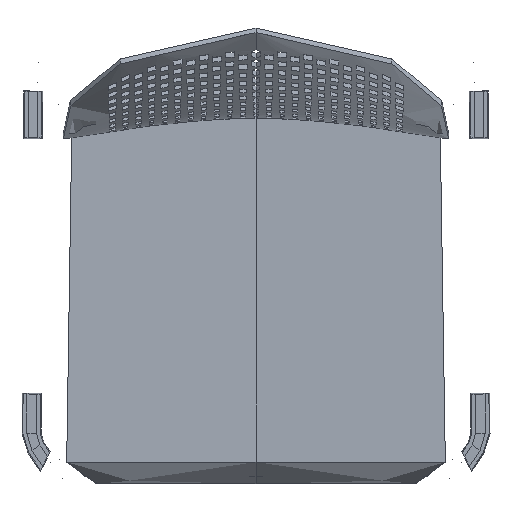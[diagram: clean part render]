
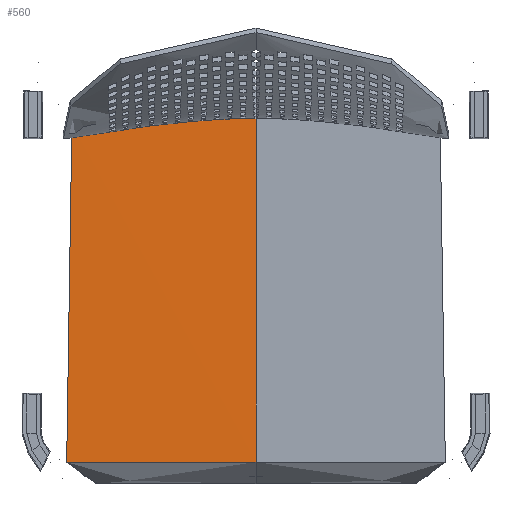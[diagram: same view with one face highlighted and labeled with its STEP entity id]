
A CAD part, top view. The second image highlights one B-rep face of the part: STEP entity #560.
In plain terms, the highlighted free-form (B-spline) face has degree [3, 3] with [4, 6] control points.
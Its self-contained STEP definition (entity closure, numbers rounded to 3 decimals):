
#560=ADVANCED_FACE('',(#1643),#20193,.T.);
#1643=FACE_OUTER_BOUND('',#2726,.T.);
#2726=EDGE_LOOP('',(#4316,#4317,#4318,#4319,#4320));
#4316=ORIENTED_EDGE('',*,*,#10676,.T.);
#4317=ORIENTED_EDGE('',*,*,#10666,.T.);
#4318=ORIENTED_EDGE('',*,*,#10685,.F.);
#4319=ORIENTED_EDGE('',*,*,#10661,.T.);
#4320=ORIENTED_EDGE('',*,*,#10686,.F.);
#10661=EDGE_CURVE('',#17061,#17063,#13990,.T.);
#10666=EDGE_CURVE('',#17066,#17067,#13995,.T.);
#10676=EDGE_CURVE('',#17072,#17066,#14005,.T.);
#10685=EDGE_CURVE('',#17061,#17067,#14014,.T.);
#10686=EDGE_CURVE('',#17072,#17063,#13840,.T.);
#13840=(
BOUNDED_CURVE()
B_SPLINE_CURVE(3,(#31463,#31464,#31465,#31466,#31467,#31468,#31469,#31470,
#31471,#31472,#31473,#31474,#31475,#31476,#31477,#31478,#31479,#31480,#31481,
#31482,#31483,#31484,#31485,#31486,#31487,#31488,#31489,#31490,#31491,#31492,
#31493),.UNSPECIFIED.,.F.,.F.)
B_SPLINE_CURVE_WITH_KNOTS((4,1,1,3,3,1,1,1,3,1,3,3,3,3,4),(2.851,
11.912,18.296,25.391,29.766,33.648,
35.997,37.781,43.025,45.325,48.241,
51.964,58.29,64.261,66.204),
 .UNSPECIFIED.)
CURVE()
GEOMETRIC_REPRESENTATION_ITEM()
RATIONAL_B_SPLINE_CURVE((1.,1.,1.,1.,1.,
1.,1.,1.,1.,1.,1.,1.,1.,1.,
1.,1.,1.,1.,1.,1.,1.,1.,1.,1.,1.,1.,1.,1.,
1.,1.,1.))
REPRESENTATION_ITEM('')
);
#13990=B_SPLINE_CURVE_WITH_KNOTS('',3,(#31202,#31203,#31204,#31205),
 .UNSPECIFIED.,.F.,.F.,(4,4),(-218.041,-38.983),
 .UNSPECIFIED.);
#13995=B_SPLINE_CURVE_WITH_KNOTS('',3,(#31234,#31235,#31236,#31237),
 .UNSPECIFIED.,.F.,.F.,(4,4),(0.,218.041),.UNSPECIFIED.);
#14005=B_SPLINE_CURVE_WITH_KNOTS('',1,(#31324,#31325),.UNSPECIFIED.,.F.,
 .F.,(2,2),(-388.74,0.),.UNSPECIFIED.);
#14014=B_SPLINE_CURVE_WITH_KNOTS('',3,(#31457,#31458,#31459,#31460,#31461,
#31462),.UNSPECIFIED.,.F.,.F.,(4,1,1,4),(-478.317,-332.608,
-186.899,-41.19),.UNSPECIFIED.);
#17061=VERTEX_POINT('',#28997);
#17063=VERTEX_POINT('',#28999);
#17066=VERTEX_POINT('',#29002);
#17067=VERTEX_POINT('',#29003);
#17072=VERTEX_POINT('',#29008);
#20193=B_SPLINE_SURFACE_WITH_KNOTS('',3,3,((#21670,#21671,#21672,#21673,
#21674,#21675),(#21676,#21677,#21678,#21679,#21680,#21681),(#21682,#21683,
#21684,#21685,#21686,#21687),(#21688,#21689,#21690,#21691,#21692,#21693)),
 .UNSPECIFIED.,.F.,.F.,.F.,(4,4),(4,1,1,4),(-0.436,218.041),
(41.19,186.899,332.608,478.754),
 .UNSPECIFIED.);
#21670=CARTESIAN_POINT('',(-218.048,-200.999,463.095));
#21671=CARTESIAN_POINT('',(-217.329,-154.605,462.325));
#21672=CARTESIAN_POINT('',(-215.891,-62.02,460.852));
#21673=CARTESIAN_POINT('',(-213.732,77.057,458.542));
#21674=CARTESIAN_POINT('',(-212.292,169.882,456.959));
#21675=CARTESIAN_POINT('',(-211.571,216.377,456.176));
#21676=CARTESIAN_POINT('',(-145.365,-200.999,461.087));
#21677=CARTESIAN_POINT('',(-144.886,-164.658,460.484));
#21678=CARTESIAN_POINT('',(-143.927,-58.489,448.29));
#21679=CARTESIAN_POINT('',(-142.488,90.792,446.302));
#21680=CARTESIAN_POINT('',(-141.528,180.446,452.036));
#21681=CARTESIAN_POINT('',(-141.047,223.036,453.407));
#21682=CARTESIAN_POINT('',(-72.683,-200.999,460.083));
#21683=CARTESIAN_POINT('',(-72.443,-169.684,459.563));
#21684=CARTESIAN_POINT('',(-71.964,-56.724,442.009));
#21685=CARTESIAN_POINT('',(-71.244,97.659,440.182));
#21686=CARTESIAN_POINT('',(-70.764,185.728,449.575));
#21687=CARTESIAN_POINT('',(-70.524,226.365,452.022));
#21688=CARTESIAN_POINT('',(0.,-200.999,460.083));
#21689=CARTESIAN_POINT('',(0.,-169.684,459.563));
#21690=CARTESIAN_POINT('',(0.,-56.724,442.009));
#21691=CARTESIAN_POINT('',(0.,97.659,440.182));
#21692=CARTESIAN_POINT('',(0.,185.728,449.575));
#21693=CARTESIAN_POINT('',(0.,226.365,452.022));
#28997=CARTESIAN_POINT('',(0.,226.,452.));
#28999=CARTESIAN_POINT('',(-173.403,219.256,454.809));
#29002=CARTESIAN_POINT('',(-217.613,-200.999,463.083));
#29003=CARTESIAN_POINT('',(0.,-200.999,460.083));
#29008=CARTESIAN_POINT('',(-211.594,187.641,456.636));
#31202=CARTESIAN_POINT('',(0.,226.,452.));
#31203=CARTESIAN_POINT('',(-57.801,226.,452.));
#31204=CARTESIAN_POINT('',(-115.602,223.752,452.936));
#31205=CARTESIAN_POINT('',(-173.403,219.256,454.809));
#31234=CARTESIAN_POINT('',(-217.613,-200.999,463.083));
#31235=CARTESIAN_POINT('',(-145.075,-200.999,461.083));
#31236=CARTESIAN_POINT('',(-72.538,-200.999,460.083));
#31237=CARTESIAN_POINT('',(0.,-200.999,460.083));
#31324=CARTESIAN_POINT('',(-211.594,187.641,456.636));
#31325=CARTESIAN_POINT('',(-217.613,-200.999,463.083));
#31457=CARTESIAN_POINT('',(0.,226.,452.));
#31458=CARTESIAN_POINT('',(0.,185.464,449.547));
#31459=CARTESIAN_POINT('',(0.,97.505,440.184));
#31460=CARTESIAN_POINT('',(0.,-56.724,442.009));
#31461=CARTESIAN_POINT('',(0.,-169.684,459.563));
#31462=CARTESIAN_POINT('',(0.,-200.999,460.083));
#31463=CARTESIAN_POINT('',(-211.594,187.641,456.636));
#31464=CARTESIAN_POINT('',(-208.679,186.894,456.478));
#31465=CARTESIAN_POINT('',(-203.606,186.011,456.189));
#31466=CARTESIAN_POINT('',(-196.091,185.782,455.749));
#31467=CARTESIAN_POINT('',(-191.609,186.251,455.489));
#31468=CARTESIAN_POINT('',(-189.278,186.675,455.358));
#31469=CARTESIAN_POINT('',(-187.842,186.937,455.277));
#31470=CARTESIAN_POINT('',(-186.416,187.277,455.198));
#31471=CARTESIAN_POINT('',(-185.031,187.75,455.123));
#31472=CARTESIAN_POINT('',(-183.804,188.17,455.057));
#31473=CARTESIAN_POINT('',(-181.884,189.018,454.957));
#31474=CARTESIAN_POINT('',(-179.674,190.557,454.852));
#31475=CARTESIAN_POINT('',(-177.367,192.702,454.75));
#31476=CARTESIAN_POINT('',(-176.067,194.709,454.706));
#31477=CARTESIAN_POINT('',(-175.373,196.318,454.689));
#31478=CARTESIAN_POINT('',(-175.068,197.024,454.682));
#31479=CARTESIAN_POINT('',(-174.486,198.671,454.671));
#31480=CARTESIAN_POINT('',(-174.139,200.38,454.674));
#31481=CARTESIAN_POINT('',(-173.994,201.341,454.677));
#31482=CARTESIAN_POINT('',(-173.808,202.569,454.682));
#31483=CARTESIAN_POINT('',(-173.711,203.807,454.69));
#31484=CARTESIAN_POINT('',(-173.639,205.044,454.699));
#31485=CARTESIAN_POINT('',(-173.514,207.147,454.715));
#31486=CARTESIAN_POINT('',(-173.478,209.253,454.733));
#31487=CARTESIAN_POINT('',(-173.454,211.358,454.75));
#31488=CARTESIAN_POINT('',(-173.431,213.344,454.767));
#31489=CARTESIAN_POINT('',(-173.424,215.331,454.782));
#31490=CARTESIAN_POINT('',(-173.414,217.317,454.796));
#31491=CARTESIAN_POINT('',(-173.411,217.963,454.801));
#31492=CARTESIAN_POINT('',(-173.407,218.61,454.805));
#31493=CARTESIAN_POINT('',(-173.403,219.256,454.809));
